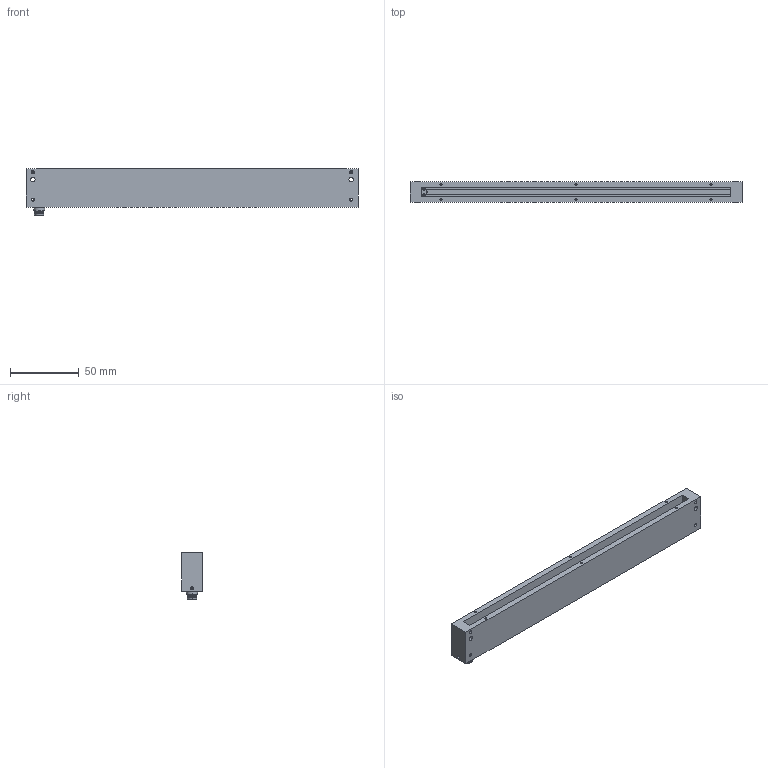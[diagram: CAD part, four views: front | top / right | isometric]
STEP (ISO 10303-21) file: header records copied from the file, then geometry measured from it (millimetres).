
FILE_DESCRIPTION(('STEP AP214'),'1');
FILE_NAME('TopLine 4TE Kundenmodell ohne Front.stp','2020-04-07T13:13:22',(' '),(' '),'Spatial InterOp 3D',' ',' ');
FILE_SCHEMA(('AUTOMOTIVE_DESIGN { 1 0 10303 214 1 1 1 1 }'));
Length unit declared in the file: metre
Products named in the file (1): Volumenkörper
Bounding box: 241 x 15 x 33.98 mm (x, y, z)
Volume: 63901.9 mm3; surface area: 35907.1 mm2
Topology: 1 solids, 1 shells, 194 faces, 457 edges, 261 vertices
Faces by surface type: cylinder 90, plane 44, cone 42, sphere 16, torus 2
Entity records: 6190 total; most frequent: DIRECTION 1039, CARTESIAN_POINT 915, ORIENTED_EDGE 846, AXIS2_PLACEMENT_3D 425, EDGE_CURVE 423, VERTEX_POINT 261, EDGE_LOOP 242, CIRCLE 230
